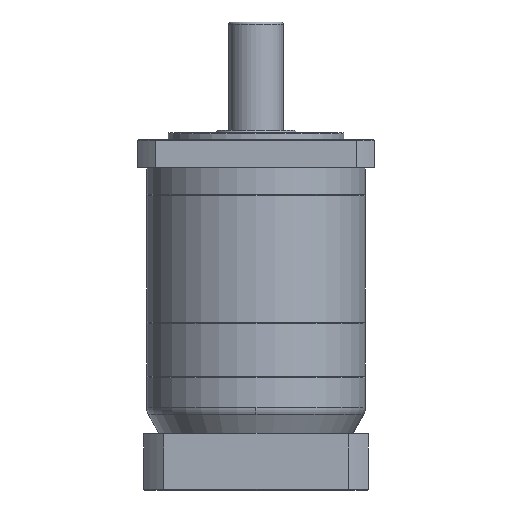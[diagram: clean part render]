
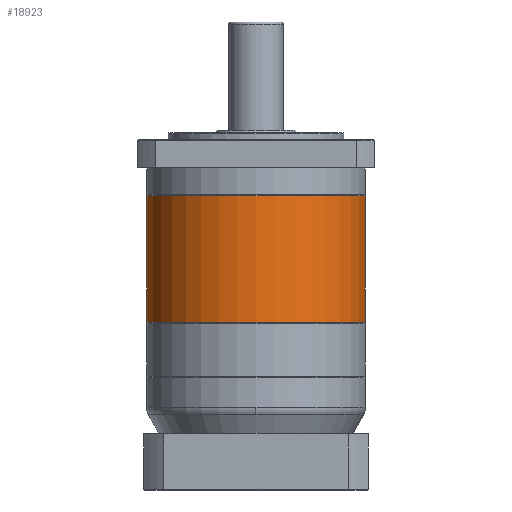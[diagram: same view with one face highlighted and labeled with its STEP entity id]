
A CAD part, front view. The second image highlights one B-rep face of the part: STEP entity #18923.
In plain terms, the highlighted cylindrical face has radius 81 mm (diameter 162 mm), a partial arc.
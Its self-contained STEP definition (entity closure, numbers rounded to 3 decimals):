
#587 = VECTOR ( 'NONE', #31175, 1000. ) ;
#10666 = DIRECTION ( 'NONE',  ( 1., 0., 0. ) ) ;
#12177 = CARTESIAN_POINT ( 'NONE',  ( -263.218, 46.564, 87.803 ) ) ;
#18757 = CARTESIAN_POINT ( 'NONE',  ( -182.218, 46.564, 87.303 ) ) ;
#18923 = ADVANCED_FACE ( 'NONE', ( #66375 ), #87024, .T. ) ;
#22493 = ORIENTED_EDGE ( 'NONE', *, *, #59482, .T. ) ;
#24415 = DIRECTION ( 'NONE',  ( 0., 0., 1. ) ) ;
#31175 = DIRECTION ( 'NONE',  ( 0., 0., 1. ) ) ;
#32108 = CIRCLE ( 'NONE', #33552, 81. ) ;
#32648 = EDGE_CURVE ( 'NONE', #65222, #54285, #48945, .T. ) ;
#33552 = AXIS2_PLACEMENT_3D ( 'NONE', #87012, #24415, #55171 ) ;
#36526 = EDGE_CURVE ( 'NONE', #58343, #85211, #71439, .T. ) ;
#38860 = AXIS2_PLACEMENT_3D ( 'NONE', #97187, #97517, #72783 ) ;
#41301 = ORIENTED_EDGE ( 'NONE', *, *, #32648, .T. ) ;
#44641 = AXIS2_PLACEMENT_3D ( 'NONE', #18757, #95920, #10666 ) ;
#44945 = VECTOR ( 'NONE', #57146, 1000. ) ;
#48945 = LINE ( 'NONE', #84286, #587 ) ;
#49350 = CARTESIAN_POINT ( 'NONE',  ( -263.218, 46.564, 87.303 ) ) ;
#53066 = CARTESIAN_POINT ( 'NONE',  ( -101.218, 46.564, 87.803 ) ) ;
#54285 = VERTEX_POINT ( 'NONE', #61250 ) ;
#55171 = DIRECTION ( 'NONE',  ( 1., 0., 0. ) ) ;
#57146 = DIRECTION ( 'NONE',  ( 0., 0., 1. ) ) ;
#58176 = EDGE_CURVE ( 'NONE', #58343, #65222, #32108, .T. ) ;
#58343 = VERTEX_POINT ( 'NONE', #12177 ) ;
#59482 = EDGE_CURVE ( 'NONE', #54285, #85211, #76336, .T. ) ;
#61250 = CARTESIAN_POINT ( 'NONE',  ( -101.218, 46.564, 181.303 ) ) ;
#65222 = VERTEX_POINT ( 'NONE', #53066 ) ;
#66375 = FACE_OUTER_BOUND ( 'NONE', #71077, .T. ) ;
#71077 = EDGE_LOOP ( 'NONE', ( #89626, #87905, #41301, #22493 ) ) ;
#71439 = LINE ( 'NONE', #49350, #44945 ) ;
#72783 = DIRECTION ( 'NONE',  ( 1., 0., 0. ) ) ;
#74072 = CARTESIAN_POINT ( 'NONE',  ( -263.218, 46.564, 181.303 ) ) ;
#76336 = CIRCLE ( 'NONE', #38860, 81. ) ;
#84286 = CARTESIAN_POINT ( 'NONE',  ( -101.218, 46.564, 87.303 ) ) ;
#85211 = VERTEX_POINT ( 'NONE', #74072 ) ;
#87012 = CARTESIAN_POINT ( 'NONE',  ( -182.218, 46.564, 87.803 ) ) ;
#87024 = CYLINDRICAL_SURFACE ( 'NONE', #44641, 81. ) ;
#87905 = ORIENTED_EDGE ( 'NONE', *, *, #58176, .T. ) ;
#89626 = ORIENTED_EDGE ( 'NONE', *, *, #36526, .F. ) ;
#95920 = DIRECTION ( 'NONE',  ( 0., 0., 1. ) ) ;
#97187 = CARTESIAN_POINT ( 'NONE',  ( -182.218, 46.564, 181.303 ) ) ;
#97517 = DIRECTION ( 'NONE',  ( 0., 0., -1. ) ) ;
